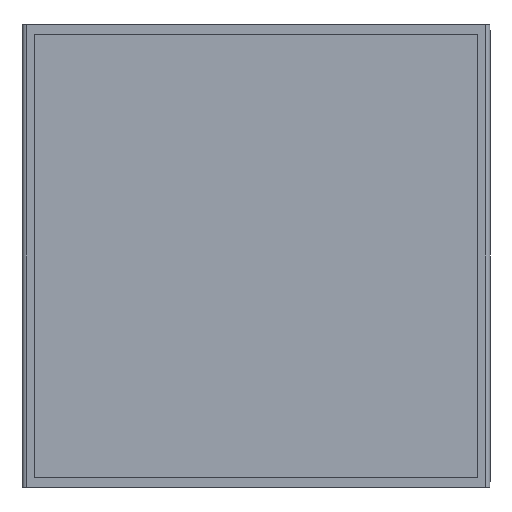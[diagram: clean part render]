
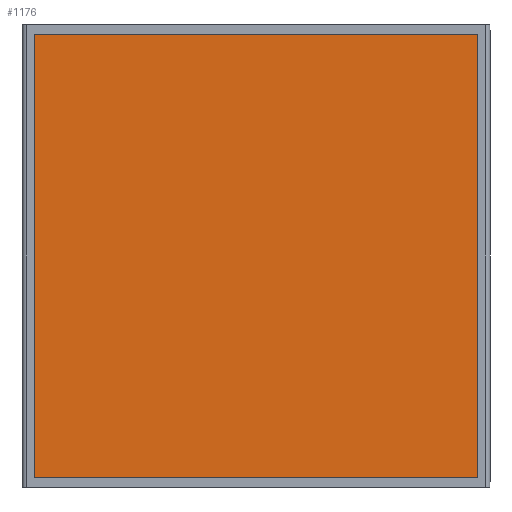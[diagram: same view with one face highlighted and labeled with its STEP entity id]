
A CAD part, front view. The second image highlights one B-rep face of the part: STEP entity #1176.
In plain terms, the highlighted planar face has unit normal (0, -1, 0).
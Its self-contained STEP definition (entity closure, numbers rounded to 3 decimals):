
#110 = EDGE_CURVE ( 'NONE', #821, #5122, #3036, .T. ) ;
#792 = EDGE_CURVE ( 'NONE', #5122, #4971, #1022, .T. ) ;
#821 = VERTEX_POINT ( 'NONE', #5509 ) ;
#875 = ORIENTED_EDGE ( 'NONE', *, *, #3824, .F. ) ;
#921 = CARTESIAN_POINT ( 'NONE',  ( 12.7, -0.127, -12.7 ) ) ;
#958 = CARTESIAN_POINT ( 'NONE',  ( -12.7, -0.127, -12.7 ) ) ;
#1022 = LINE ( 'NONE', #4709, #1187 ) ;
#1176 = ADVANCED_FACE ( 'NONE', ( #5499 ), #1581, .F. ) ;
#1187 = VECTOR ( 'NONE', #1555, 1000. ) ;
#1315 = CARTESIAN_POINT ( 'NONE',  ( 12.7, -0.127, 12.7 ) ) ;
#1401 = EDGE_CURVE ( 'NONE', #2895, #821, #4471, .T. ) ;
#1412 = ORIENTED_EDGE ( 'NONE', *, *, #1401, .F. ) ;
#1423 = VECTOR ( 'NONE', #4751, 1000. ) ;
#1426 = DIRECTION ( 'NONE',  ( 0., 0., 1. ) ) ;
#1555 = DIRECTION ( 'NONE',  ( 0., 0., -1. ) ) ;
#1559 = VECTOR ( 'NONE', #5337, 1000. ) ;
#1581 = PLANE ( 'NONE',  #2240 ) ;
#1635 = EDGE_LOOP ( 'NONE', ( #1412, #875, #2257, #3953 ) ) ;
#2240 = AXIS2_PLACEMENT_3D ( 'NONE', #2799, #3261, #5066 ) ;
#2257 = ORIENTED_EDGE ( 'NONE', *, *, #792, .F. ) ;
#2299 = CARTESIAN_POINT ( 'NONE',  ( -12.7, -0.127, -12.7 ) ) ;
#2799 = CARTESIAN_POINT ( 'NONE',  ( -12.7, -0.127, 12.7 ) ) ;
#2895 = VERTEX_POINT ( 'NONE', #2299 ) ;
#3036 = LINE ( 'NONE', #3447, #1423 ) ;
#3261 = DIRECTION ( 'NONE',  ( 0., 1., 0. ) ) ;
#3444 = LINE ( 'NONE', #3494, #1559 ) ;
#3447 = CARTESIAN_POINT ( 'NONE',  ( -12.7, -0.127, 12.7 ) ) ;
#3494 = CARTESIAN_POINT ( 'NONE',  ( -12.7, -0.127, -12.7 ) ) ;
#3824 = EDGE_CURVE ( 'NONE', #4971, #2895, #3444, .T. ) ;
#3953 = ORIENTED_EDGE ( 'NONE', *, *, #110, .F. ) ;
#4471 = LINE ( 'NONE', #958, #5706 ) ;
#4709 = CARTESIAN_POINT ( 'NONE',  ( 12.7, -0.127, -12.7 ) ) ;
#4751 = DIRECTION ( 'NONE',  ( 1., 0., 0. ) ) ;
#4971 = VERTEX_POINT ( 'NONE', #921 ) ;
#5066 = DIRECTION ( 'NONE',  ( 0., 0., 1. ) ) ;
#5122 = VERTEX_POINT ( 'NONE', #1315 ) ;
#5337 = DIRECTION ( 'NONE',  ( -1., 0., 0. ) ) ;
#5499 = FACE_OUTER_BOUND ( 'NONE', #1635, .T. ) ;
#5509 = CARTESIAN_POINT ( 'NONE',  ( -12.7, -0.127, 12.7 ) ) ;
#5706 = VECTOR ( 'NONE', #1426, 1000. ) ;
